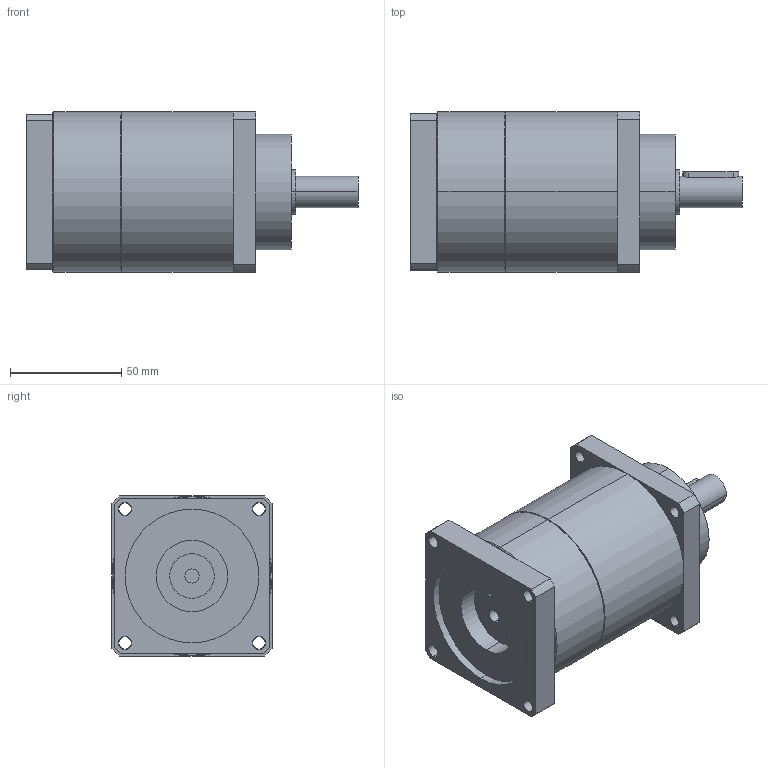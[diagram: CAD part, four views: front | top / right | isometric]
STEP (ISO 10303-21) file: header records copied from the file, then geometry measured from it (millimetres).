
FILE_DESCRIPTION(('CoCreate Modeling STEP Export'),'2;1');
FILE_NAME('GPT75_ig-9-12-16-20-25-28-35-40-50-70-100_14_B5T_6.35_P30.stp','2014-08-27T13:39:42',(''),(''),'CoCreate Modeling STEP processor for AP214 (Solid Model)','CoCreate Modeling 16.00C 25-Feb-2009 (C) Parametric Technology GmbH','');
FILE_SCHEMA(('AUTOMOTIVE_DESIGN { 1 0 10303 214 1 1 1 1 }'));
Length unit declared in the file: millimetre
Products named in the file (2): GPT75_ig-9-12-16-20-25-28-35-40-50-70-100_14_B5T_6.35_P30
Assembly tree (1 placements, depth 2):
  GPT75_ig-9-12-16-20-25-28-35-40-50-70-100_14_B5T_6.35_P30
    GPT75_ig-9-12-16-20-25-28-35-40-50-70-100_14_B5T_6.35_P30
Bounding box: 149 x 72 x 72 mm (x, y, z)
Volume: 460019.2 mm3; surface area: 44519 mm2
Topology: 1 solids, 1 shells, 84 faces, 210 edges, 137 vertices
Faces by surface type: cylinder 46, plane 34, cone 4
Entity records: 2588 total; most frequent: CARTESIAN_POINT 732, ORIENTED_EDGE 420, DIRECTION 326, EDGE_CURVE 210, VERTEX_POINT 137, AXIS2_PLACEMENT_3D 119, EDGE_LOOP 109, VECTOR 88
